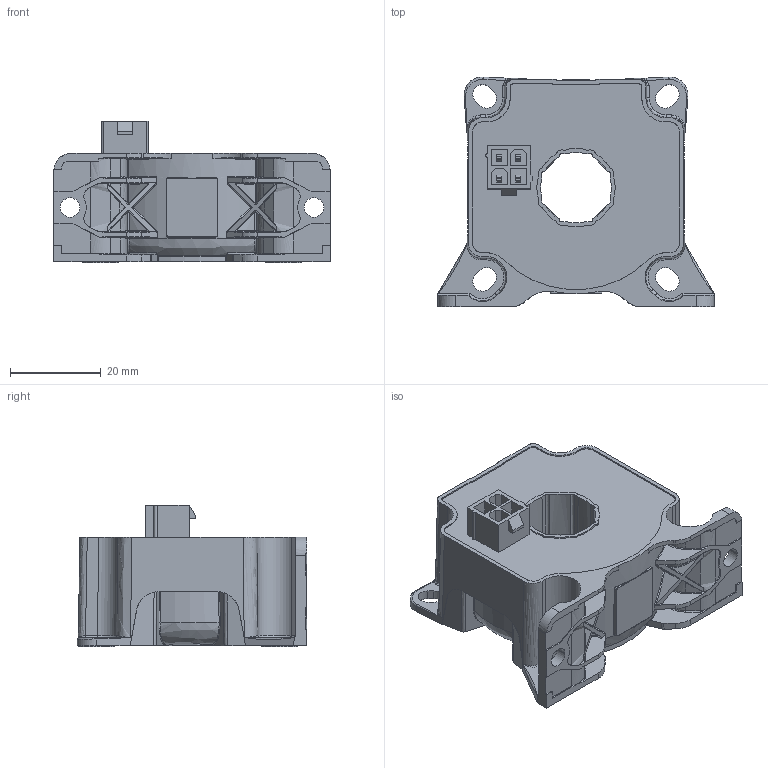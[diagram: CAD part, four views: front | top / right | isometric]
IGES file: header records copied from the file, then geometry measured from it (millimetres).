
Start section: Elysium IGES Interface
Global section: file name: C:\work-tvi\projects\CAD-Customer\LF210_S-SPA1__LF210_S-SPA5\LF210_S-SPA11.igs; native system: PTC Creo Elements/Direct Modeling 19.0B  21-Mar-2015; preprocessor: Creo Element/Direct IGES_3D V2.2; author: Unknown; organization: Unknown; date: 20151127.160659; units: millimetre
Bounding box: 61 x 50.75 x 31.3 mm (x, y, z)
Volume: 38684.9 mm3; surface area: 15485.5 mm2
Topology: 1 solids, 1 shells, 1330 faces, 3477 edges, 2181 vertices
Faces by surface type: bspline 1330
